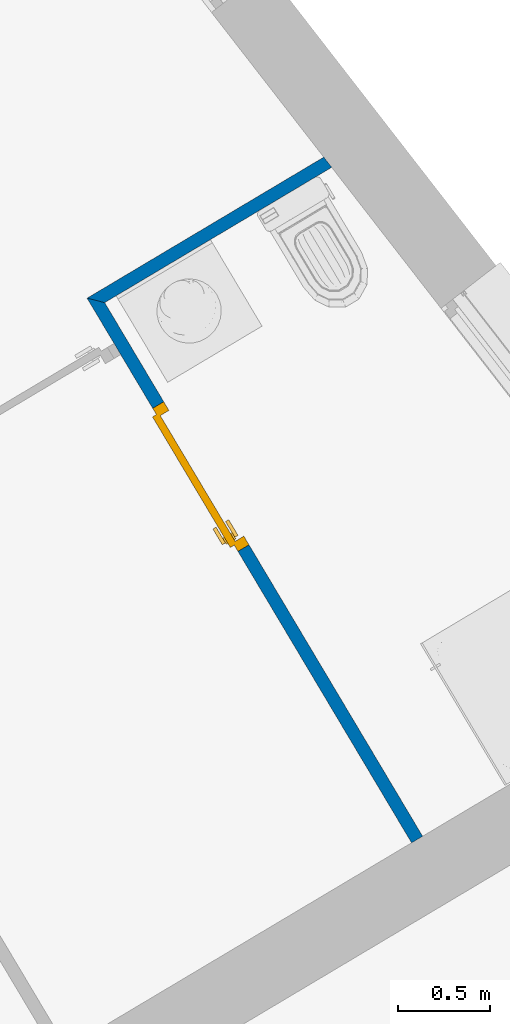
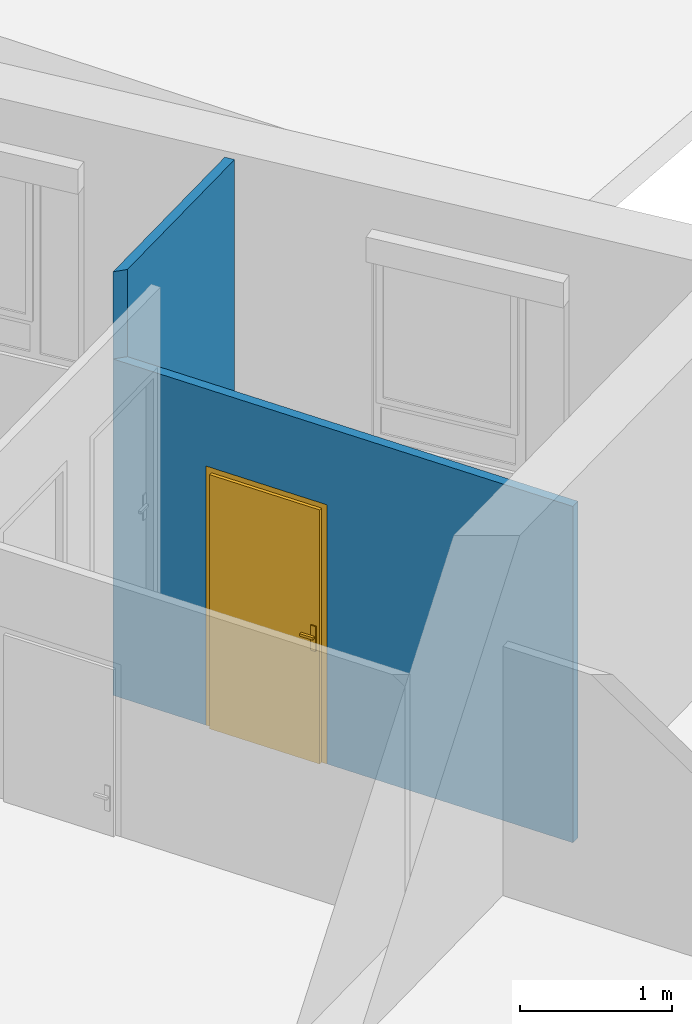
# One storey, part 43 of 121: 2 walls, 1 door, 1 opening.
"""IFC2X3 building model written with IfcOpenShell, lengths in metres."""

from ifc_helpers import new_model, entity, si_unit, converted_unit, derived_unit, money_unit, direction, frame, origin_with_axes, origin_2d_with_axis, place, context, subcontext, project, spatial, polyline, rectangle, outline, extrude, faceted_brep, source, transform, mapped, material, layer, layer_set, layer_usage, type_object, element, fill, save


model = new_model("IFC2X3")

# Units and contexts
model_context = context("Model", 3, precision=1e-05, world=origin_with_axes(), true_north=direction((0.0, 1.0)))
body_context = subcontext(model_context, "Body", "Model", "MODEL_VIEW")
ifc_project = project(units=[si_unit("LENGTHUNIT", "METRE"), si_unit("AREAUNIT", "SQUARE_METRE"), si_unit("VOLUMEUNIT", "CUBIC_METRE"), converted_unit("PLANEANGLEUNIT", "DEGREE", entity("IfcPlaneAngleMeasure", 0.0174532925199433), si_unit("PLANEANGLEUNIT", "RADIAN"), dimensions=[0, 0, 0, 0, 0, 0, 0]), money_unit("CHF"), converted_unit("TIMEUNIT", "Year", entity("IfcTimeMeasure", 31557600.0), si_unit("TIMEUNIT", "SECOND"), dimensions=[0, 0, 1, 0, 0, 0, 0]), si_unit("MASSUNIT", "GRAM", prefix="KILO"), si_unit("THERMODYNAMICTEMPERATUREUNIT", "DEGREE_CELSIUS"), si_unit("LUMINOUSINTENSITYUNIT", "LUMEN"), si_unit("ENERGYUNIT", "JOULE", prefix="MEGA"), derived_unit("THERMALCONDUCTANCEUNIT", [(si_unit("POWERUNIT", "WATT"), 1), (si_unit("LENGTHUNIT", "METRE"), -1), (si_unit("THERMODYNAMICTEMPERATUREUNIT", "KELVIN"), -1)]), derived_unit("SPECIFICHEATCAPACITYUNIT", [(si_unit("ENERGYUNIT", "JOULE"), 1), (si_unit("MASSUNIT", "GRAM", prefix="KILO"), -1), (si_unit("THERMODYNAMICTEMPERATUREUNIT", "KELVIN"), -1)]), derived_unit("MASSDENSITYUNIT", [(si_unit("MASSUNIT", "GRAM", prefix="KILO"), 1), (si_unit("VOLUMEUNIT", "CUBIC_METRE"), -1)])], contexts=[model_context])

# Site, building, storey
site_placement = place(None, origin_with_axes())
site = spatial("IfcSite", under=ifc_project, at=site_placement, Name="Site", CompositionType="ELEMENT")
building_placement = place(site_placement, origin_with_axes())
building = spatial("IfcBuilding", under=site, at=building_placement, Name="Bâtiment", CompositionType="ELEMENT")
storey_placement = place(building_placement, frame((0.0, 0.0, 2.75), z_axis=(0.0, 0.0, 1.0), x_axis=(1.0, 0.0, 0.0)))
storey = spatial("IfcBuildingStorey", under=building, at=storey_placement, Name="Etage 1", CompositionType="ELEMENT", Elevation=2.75)

# Wall
ifc_material = material(Name="Hachure solide 268963992")
ifc_layer = layer(ifc_material, 0.07, ventilated="UNKNOWN")
ifc_layer_set = layer_set([ifc_layer], Name="Cloison 70 0826278243")
ifc_layer_usage_1 = layer_usage(ifc_layer_set, "AXIS2", "POSITIVE", 0.0)
wall_type = type_object("IfcWallType", Name="Cloison 70 0826278243 70", PredefinedType="NOTDEFINED")
wall_1_placement = place(storey_placement, frame((9541.09351188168, -1041.235742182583, 57.7), z_axis=(0.0, 0.0, 1.0), x_axis=(0.8590867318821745, 0.511830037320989, 0.0)))
element("IfcWallStandardCase", 1, at=wall_1_placement, inside=storey, type_object=wall_type, material=ifc_layer_usage_1, Name="Mur-150", context=body_context, shape_type="SweptSolid", body=[
    extrude(outline(polyline([(0.07000000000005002, 0.0), (1.514170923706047, 0.0), (1.505559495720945, 0.06999999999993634), (1.657906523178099e-08, 0.06999999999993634), (0.07000000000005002, 0.0)])), origin_with_axes(), (0.0, 0.0, 1.0), 2.7),
])

# Wall, opening, door
ifc_layer_usage_2 = layer_usage(ifc_layer_set, "AXIS2", "POSITIVE", 0.0)
wall_2_placement = place(storey_placement, frame((9541.09351188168, -1041.235742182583, 57.0), z_axis=(0.0, 0.0, 1.0), x_axis=(0.5118298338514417, -0.8590868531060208, 0.0)))
wall_2 = element("IfcWallStandardCase", 2, at=wall_2_placement, inside=storey, type_object=wall_type, material=ifc_layer_usage_2, Name="Mur-150", context=body_context, shape_type="SweptSolid", body=[
    extrude(outline(polyline([(-0.06999999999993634, 0.0), (3.39449248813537, 0.0), (3.394492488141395, 0.07000000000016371), (-1.657906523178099e-08, 0.07000000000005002), (-0.06999999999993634, 0.0)])), origin_with_axes(), (0.0, 0.0, 1.0), 2.7),
])
opening_placement = place(wall_2_placement, frame((1.085641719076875, 0.0, 0.0), z_axis=(0.0, 0.0, 1.0), x_axis=(1.0, 0.0, 0.0)))
opening = element("IfcOpeningElement", 3, at=opening_placement, cuts=wall_2, Name="Por-303", context=body_context, shape_type="SweptSolid", body=[
    extrude(rectangle(XDim=0.9099999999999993, YDim=2.079999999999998, at=origin_2d_with_axis()), frame((0.0, 0.07000000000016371, 1.039999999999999), z_axis=(0.0, -1.0, 0.0), x_axis=(-1.0, 0.0, 0.0)), (0.0, 0.0, 1.0), 0.14),
])
door_style = type_object("IfcDoorStyle", Name="Porte_1v", ConstructionType="NOTDEFINED", OperationType="NOTDEFINED", ParameterTakesPrecedence=False, Sizeable=False)
shared_shape = source(origin_with_axes(), body_context, "Body", "Brep", [
    faceted_brep([(0.455, 0.0, 0.0), (0.415, 0.0, 0.0), (0.415, 0.0, 2.04), (-0.415, 0.0, 2.04), (-0.415, 0.0, 0.0), (-0.455, 0.0, 0.0), (-0.455, 0.0, 2.08), (0.455, 0.0, 2.08), (0.455, -0.07, 0.0), (0.4, -0.07, 0.0), (0.4, -0.015, 0.0), (0.415, -0.015, 0.0), (0.415, -0.015, 2.04), (-0.415, -0.015, 2.04), (-0.415, -0.015, 0.0), (-0.4, -0.015, 0.0), (-0.4, -0.07, 0.0), (-0.455, -0.07, 0.0), (-0.455, -0.07, 2.08), (0.455, -0.07, 2.08), (-0.4, -0.07, 2.025), (0.4, -0.07, 2.025), (0.4, -0.015, 2.025), (-0.4, -0.015, 2.025)], [[[0, 1, 2, 3, 4, 5, 6, 7]], [[0, 8, 9, 10, 11, 1]], [[1, 11, 12, 2]], [[2, 12, 13, 3]], [[3, 13, 14, 4]], [[5, 4, 14, 15, 16, 17]], [[18, 6, 5, 17]], [[19, 7, 6, 18]], [[8, 0, 7, 19]], [[9, 8, 19, 18, 17, 16, 20, 21]], [[10, 9, 21, 22]], [[11, 10, 22, 23, 15, 14, 13, 12]], [[23, 20, 16, 15]], [[22, 21, 20, 23]]]),
    faceted_brep([(-0.35, -0.015, 0.9), (-0.39, -0.015, 0.9), (-0.39, -0.015, 1.1), (-0.35, -0.015, 1.1), (-0.35, -0.025, 0.9), (-0.39, -0.025, 0.9), (-0.39, -0.025, 1.1), (-0.35, -0.025, 1.1)], [[[0, 1, 2, 3]], [[1, 0, 4, 5]], [[2, 1, 5, 6]], [[3, 2, 6, 7]], [[0, 3, 7, 4]], [[5, 4, 7, 6]]]),
    faceted_brep([(-0.28, -0.025, 1.0), (-0.38, -0.025, 1.0), (-0.38, -0.025, 1.02), (-0.28, -0.025, 1.02), (-0.28, -0.045, 1.0), (-0.38, -0.045, 1.0), (-0.38, -0.045, 1.02), (-0.28, -0.045, 1.02)], [[[0, 1, 2, 3]], [[1, 0, 4, 5]], [[2, 1, 5, 6]], [[3, 2, 6, 7]], [[0, 3, 7, 4]], [[5, 4, 7, 6]]]),
    faceted_brep([(-0.35, 0.035, 0.9), (-0.39, 0.035, 0.9), (-0.39, 0.035, 1.1), (-0.35, 0.035, 1.1), (-0.35, 0.025, 0.9), (-0.39, 0.025, 0.9), (-0.39, 0.025, 1.1), (-0.35, 0.025, 1.1)], [[[0, 1, 2, 3]], [[1, 0, 4, 5]], [[2, 1, 5, 6]], [[3, 2, 6, 7]], [[0, 3, 7, 4]], [[5, 4, 7, 6]]]),
    faceted_brep([(-0.28, 0.05500000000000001, 1.0), (-0.38, 0.05500000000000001, 1.0), (-0.38, 0.05500000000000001, 1.02), (-0.28, 0.05500000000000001, 1.02), (-0.28, 0.035, 1.0), (-0.38, 0.035, 1.0), (-0.38, 0.035, 1.02), (-0.28, 0.035, 1.02)], [[[0, 1, 2, 3]], [[1, 0, 4, 5]], [[2, 1, 5, 6]], [[3, 2, 6, 7]], [[0, 3, 7, 4]], [[5, 4, 7, 6]]]),
    faceted_brep([(-0.415, 0.025, 0.0), (0.415, 0.025, 0.0), (0.415, -0.015, 0.0), (-0.415, -0.015, 0.0), (-0.415, 0.025, 2.04), (0.415, 0.025, 2.04), (0.415, -0.015, 2.04), (-0.415, -0.015, 2.04)], [[[0, 1, 2, 3]], [[0, 4, 5, 1]], [[1, 5, 6, 2]], [[3, 2, 6, 7]], [[4, 0, 3, 7]], [[5, 4, 7, 6]]]),
])
door_placement = place(opening_placement, frame((0.4149999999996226, 0.0, 0.0), z_axis=(0.0, 0.0, 1.0), x_axis=(-1.0, 0.0, 0.0)))
door = element("IfcDoor", 4, at=door_placement, inside=storey, type_object=door_style, Name="Por-303", OverallHeight=2.04, OverallWidth=0.83, context=body_context, shape_type="MappedRepresentation", body=[
    mapped(shared_shape, transform((0.4149999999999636, 0.0, 0.0))),
])
fill(opening, door)

save(model, "model.ifc")
